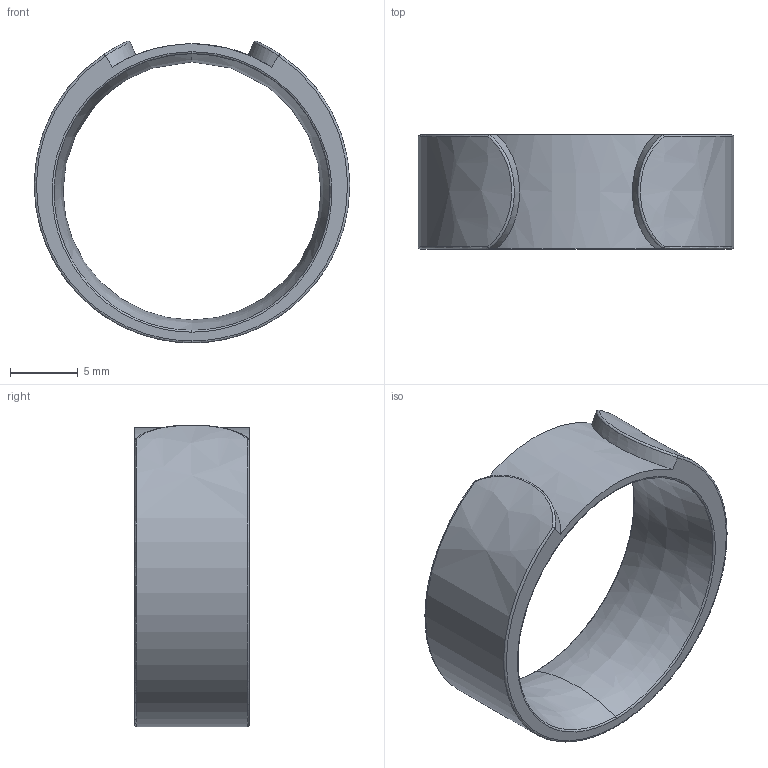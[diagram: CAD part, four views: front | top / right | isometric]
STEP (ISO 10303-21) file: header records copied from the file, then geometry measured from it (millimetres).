
FILE_DESCRIPTION(/* description */ (''),/* implementation_level */ '2;1');
FILE_NAME(/* name */ 's-4177',/* time_stamp */ '2021-07-05T14:35:55+09:00',/* author */ (''),/* organization */ (''),/* preprocessor_version */ 'ST-DEVELOPER v15',/* originating_system */ '',/* authorisation */ '');
FILE_SCHEMA (('AUTOMOTIVE_DESIGN'));
Length unit declared in the file: millimetre
Products named in the file (1): Document
Bounding box: 23.35 x 8.45 x 22.34 mm (x, y, z)
Volume: 973.1 mm3; surface area: 1314.4 mm2
Topology: 1 solids, 1 shells, 19 faces, 41 edges, 24 vertices
Faces by surface type: bspline 17, plane 2
Entity records: 1464 total; most frequent: CARTESIAN_POINT 1204, ORIENTED_EDGE 82, EDGE_CURVE 41, VERTEX_POINT 24, EDGE_LOOP 21, ADVANCED_FACE 19, FACE_OUTER_BOUND 19, B_SPLINE_CURVE_WITH_KNOTS 16
